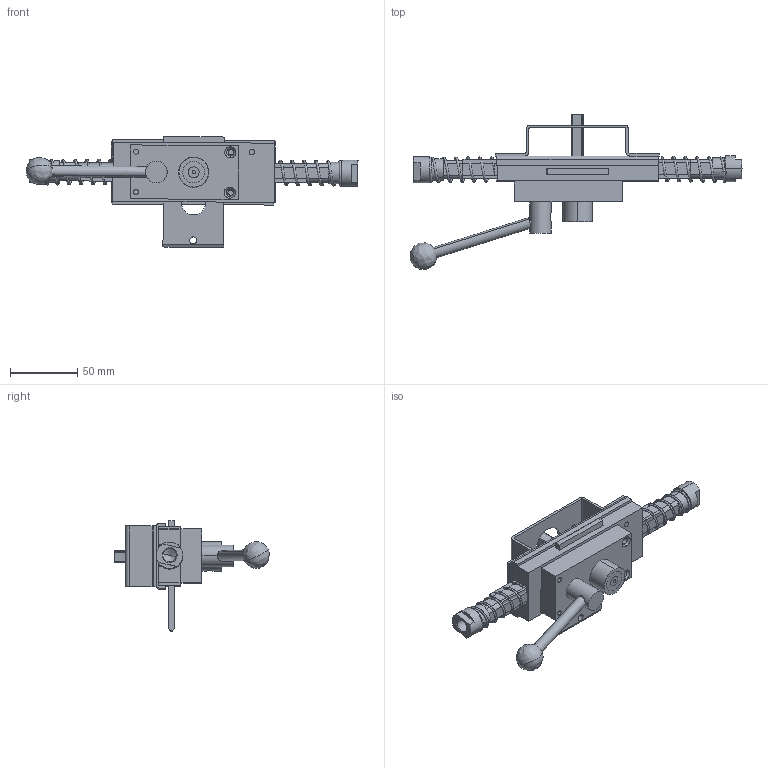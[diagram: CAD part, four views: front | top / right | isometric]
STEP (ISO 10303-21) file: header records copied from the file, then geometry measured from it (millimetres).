
FILE_DESCRIPTION (( 'STEP AP214' ), '1' );
FILE_NAME ('ZWP8_10.002.STEP', '2010-02-26T11:32:05', ( 'Techniczny' ), ( 'RST Roztocze' ), 'SwSTEP 2.0', 'SolidWorks 2010', '' );
FILE_SCHEMA (( 'AUTOMOTIVE_DESIGN' ));
Length unit declared in the file: millimetre
Products named in the file (27): Panik Sprê¿yna_Domyœlna_Domyœlna5_Domyœlna; zworzeñ blokuj¹cy panik2_Domyœlna; Panik Obudowa góra_Domyœlna_Domyœlna5_Domyœlna; Zabierak dolny_Domyœlna5_Domyœlna; Panik Ciêgno M8, M10_Domyœlna_Domyœlna5_Domyœlna; sprê¿yna do panika_Domyœlna; kolek ciegna_Domyœlna5_Domyœlna; Kula_Domyœlna_Domyœlna5_Domyœlna; ZWP8_10.002; Blacha -panik elektr_Domyœlna; Panik Tuleja Prowadz¹ca_Domyœlna_Domyœlna5_Domyœlna; wkladka do zabieraka_Domyœlna6_Domyœlna; Tulejka z zêbnikiem5_Domyœlna; kolek2_Domyœlna5_Domyœlna; Panik sworzeñ do ciêgna M8 M10_Domyœlna_Domyœlna5_Domyœlna; Panik obudowa dól 1_Domyœlna_Domyœlna5_Domyœlna; trzpien_Domyœlna5_Domyœlna; Ciêgno-ZW_Domyœlna; Panik Tulejka dystansowa_Domyœlna_Domyœlna5_Domyœlna; kolek1_Domyœlna6_Domyœlna; Sworzeñ z zêbnikiem5_Domyœlna; Korpus przek³adni_Domyœlna5_Domyœlna; sterownik_Domyœlna5_Domyœlna; jezyk_Domyœlna5_Domyœlna; Panik Ciêgno lewy_Domyœlna_Domyœlna5_Domyœlna; Panik Zabierak górny_Domyœlna_Domyœlna5_Domyœlna; Zabierak_Domyœlna5_Domyœlna
Assembly tree (34 placements, depth 2):
  ZWP8_10.002
    Tulejka z zêbnikiem5_Domyœlna
    Panik Ciêgno M8, M10_Domyœlna_Domyœlna5_Domyœlna  x2
    sprê¿yna do panika_Domyœlna  x2
    Zabierak_Domyœlna5_Domyœlna
    Panik Tulejka dystansowa_Domyœlna_Domyœlna5_Domyœlna  x2
    Ciêgno-ZW_Domyœlna  x2
    Zabierak dolny_Domyœlna5_Domyœlna
    kolek1_Domyœlna6_Domyœlna  x2
    Panik Tuleja Prowadz¹ca_Domyœlna_Domyœlna5_Domyœlna
    Panik obudowa dól 1_Domyœlna_Domyœlna5_Domyœlna
    wkladka do zabieraka_Domyœlna6_Domyœlna
    Panik Zabierak górny_Domyœlna_Domyœlna5_Domyœlna
    Panik Ciêgno lewy_Domyœlna_Domyœlna5_Domyœlna  x2
    kolek ciegna_Domyœlna5_Domyœlna  x2
    zworzeñ blokuj¹cy panik2_Domyœlna  x2
    jezyk_Domyœlna5_Domyœlna
    Sworzeñ z zêbnikiem5_Domyœlna
    sterownik_Domyœlna5_Domyœlna
    Panik Obudowa góra_Domyœlna_Domyœlna5_Domyœlna
    Panik Sprê¿yna_Domyœlna_Domyœlna5_Domyœlna
    trzpien_Domyœlna5_Domyœlna
    Blacha -panik elektr_Domyœlna
    kolek2_Domyœlna5_Domyœlna
    Panik sworzeñ do ciêgna M8 M10_Domyœlna_Domyœlna5_Domyœlna
    Kula_Domyœlna_Domyœlna5_Domyœlna
    Korpus przek³adni_Domyœlna5_Domyœlna
Bounding box: 246.67 x 115.02 x 82.29 mm (x, y, z)
Volume: 170591.9 mm3; surface area: 121689.7 mm2
Topology: 34 solids, 34 shells, 926 faces, 2484 edges, 1628 vertices
Faces by surface type: cylinder 443, plane 364, cone 94, bspline 25
Entity records: 50597 total; most frequent: CARTESIAN_POINT 19720, ORIENTED_EDGE 4436, DIRECTION 4353, EDGE_CURVE 2218, AXIS2_PLACEMENT_3D 1646, VERTEX_POINT 1468, LINE 1061, VECTOR 1061
